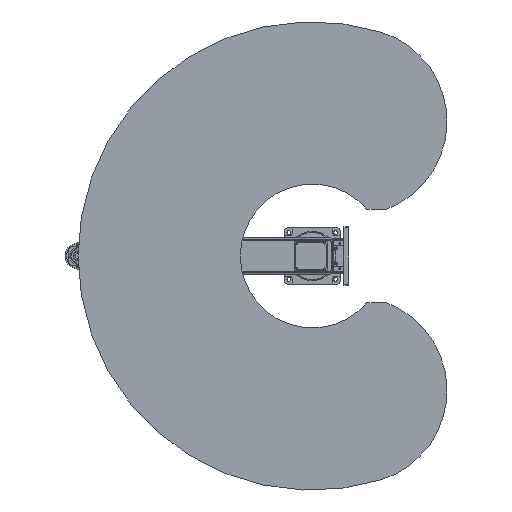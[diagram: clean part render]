
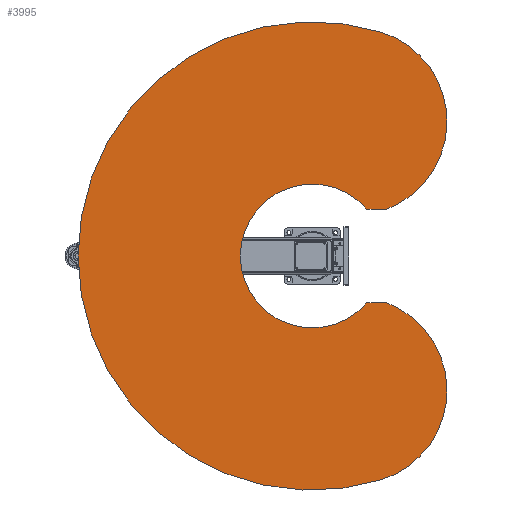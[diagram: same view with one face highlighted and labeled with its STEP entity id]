
A CAD part, front view. The second image highlights one B-rep face of the part: STEP entity #3995.
In plain terms, the highlighted planar face has unit normal (0, -1, 0).
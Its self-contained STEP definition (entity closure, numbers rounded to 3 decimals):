
#3995 = ADVANCED_FACE( '', ( #10037 ), #10038, .F. );
#10037 = FACE_OUTER_BOUND( '', #18817, .T. );
#10038 = PLANE( '', #18818 );
#18817 = EDGE_LOOP( '', ( #31732, #31733, #31734, #31735, #31736, #31737 ) );
#18818 = AXIS2_PLACEMENT_3D( '', #31738, #31739, #31740 );
#31732 = ORIENTED_EDGE( '', *, *, #50379, .F. );
#31733 = ORIENTED_EDGE( '', *, *, #50380, .F. );
#31734 = ORIENTED_EDGE( '', *, *, #50381, .T. );
#31735 = ORIENTED_EDGE( '', *, *, #50382, .F. );
#31736 = ORIENTED_EDGE( '', *, *, #48575, .F. );
#31737 = ORIENTED_EDGE( '', *, *, #47666, .F. );
#31738 = CARTESIAN_POINT( '', ( 573.783, 0., 175.423 ) );
#31739 = DIRECTION( '', ( 0., 1., 0. ) );
#31740 = DIRECTION( '', ( 0., 0., 1. ) );
#47666 = EDGE_CURVE( '', #56120, #56121, #56122, .T. );
#48575 = EDGE_CURVE( '', #56121, #57727, #57728, .T. );
#50379 = EDGE_CURVE( '', #60686, #56120, #60687, .T. );
#50380 = EDGE_CURVE( '', #60688, #60686, #60689, .T. );
#50381 = EDGE_CURVE( '', #60688, #60690, #60691, .T. );
#50382 = EDGE_CURVE( '', #57727, #60690, #60692, .T. );
#56120 = VERTEX_POINT( '', #68592 );
#56121 = VERTEX_POINT( '', #68593 );
#56122 = CIRCLE( '', #68594, 1000. );
#57727 = VERTEX_POINT( '', #71170 );
#57728 = CIRCLE( '', #71171, 400. );
#60686 = VERTEX_POINT( '', #76292 );
#60687 = CIRCLE( '', #76293, 400. );
#60688 = VERTEX_POINT( '', #76294 );
#60689 = LINE( '', #76295, #76296 );
#60690 = VERTEX_POINT( '', #76297 );
#60691 = CIRCLE( '', #76298, 307. );
#60692 = LINE( '', #76299, #76300 );
#68592 = CARTESIAN_POINT( '', ( 956.305, 0., 292.372 ) );
#68593 = CARTESIAN_POINT( '', ( -956.305, 0., 292.372 ) );
#68594 = AXIS2_PLACEMENT_3D( '', #87643, #87644, #87645 );
#71170 = CARTESIAN_POINT( '', ( -200., 0., 317.853 ) );
#71171 = AXIS2_PLACEMENT_3D( '', #88864, #88865, #88866 );
#76292 = CARTESIAN_POINT( '', ( 200., 0., 317.853 ) );
#76293 = AXIS2_PLACEMENT_3D( '', #91067, #91068, #91069 );
#76294 = CARTESIAN_POINT( '', ( 200., 0., 232.914 ) );
#76295 = CARTESIAN_POINT( '', ( 200., 0., 232.914 ) );
#76296 = VECTOR( '', #91070, 1000. );
#76297 = CARTESIAN_POINT( '', ( -200., 0., 232.914 ) );
#76298 = AXIS2_PLACEMENT_3D( '', #91071, #91072, #91073 );
#76299 = CARTESIAN_POINT( '', ( -200., 0., 317.853 ) );
#76300 = VECTOR( '', #91074, 1000. );
#87643 = CARTESIAN_POINT( '', ( 0., 0., 0. ) );
#87644 = DIRECTION( '', ( 0., 1., 0. ) );
#87645 = DIRECTION( '', ( 1., 0., 0. ) );
#88864 = CARTESIAN_POINT( '', ( -573.783, 0., 175.423 ) );
#88865 = DIRECTION( '', ( 0., 1., 0. ) );
#88866 = DIRECTION( '', ( 1., 0., 0. ) );
#91067 = CARTESIAN_POINT( '', ( 573.783, 0., 175.423 ) );
#91068 = DIRECTION( '', ( 0., 1., 0. ) );
#91069 = DIRECTION( '', ( 1., 0., 0. ) );
#91070 = DIRECTION( '', ( 0., 0., 1. ) );
#91071 = CARTESIAN_POINT( '', ( 0., 0., 0. ) );
#91072 = DIRECTION( '', ( 0., 1., 0. ) );
#91073 = DIRECTION( '', ( 1., 0., 0. ) );
#91074 = DIRECTION( '', ( 0., 0., -1. ) );
